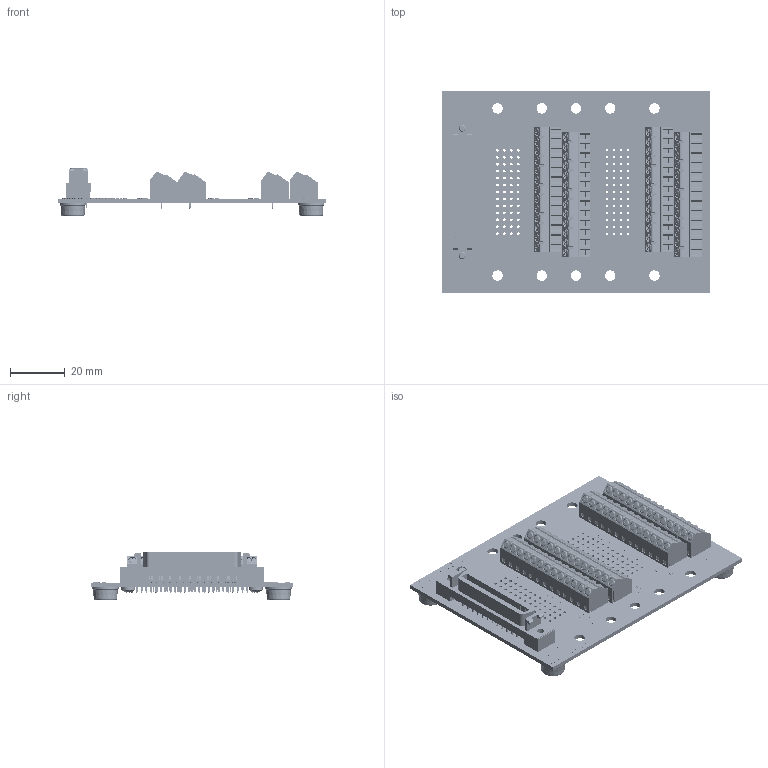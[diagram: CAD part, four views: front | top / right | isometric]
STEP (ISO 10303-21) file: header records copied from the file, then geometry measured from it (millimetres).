
FILE_DESCRIPTION (( 'STEP AP214' ), '1' );
FILE_NAME ('brkarmc50f-s-ft_rev_a.stp', '2018-07-10T02:59:25', ( '' ), ( '' ), 'SwSTEP 2.0', 'SolidWorks 2017', '' );
FILE_SCHEMA (( 'AUTOMOTIVE_DESIGN' ));
Length unit declared in the file: inch
Products named in the file (7): M2.5-.45 x 6mm philips pan head screw; MDR50 Straight; BRKARMC50F-S Board; brkarmc50f-s-ft_rev_a; Eurostyle PCB Terminal 3; RubberFoot; Eurostyle PCB Terminal 2
Assembly tree (28 placements, depth 2):
  brkarmc50f-s-ft_rev_a
    BRKARMC50F-S Board
    Eurostyle PCB Terminal 2  x8
    Eurostyle PCB Terminal 3  x12
    MDR50 Straight
    RubberFoot  x4
    M2.5-.45 x 6mm philips pan head screw  x2
Bounding box: 97.54 x 73.66 x 17.59 mm (x, y, z)
Volume: 15059.3 mm3; surface area: 35333.1 mm2
Topology: 8 solids, 68 shells, 8028 faces, 21249 edges, 14024 vertices
Faces by surface type: plane 5854, bspline 1465, cylinder 623, cone 78, torus 8
Full cylindrical faces by diameter (mm): 0.4 x40, 0.711 x49, 0.889 x52, 1.016 x52, 1.041 x52, 1.9 x52, 1.95 x52, 2.489 x2, 2.5 x4, 2.794 x2, 2.88 x52, 2.95 x52, 3.81 x10, 5 x2, 9.525 x4
Entity records: 197591 total; most frequent: CARTESIAN_POINT 84337, ORIENTED_EDGE 17890, DIRECTION 12254, EDGE_CURVE 8951, LINE 6222, VECTOR 6222, VERTEX_POINT 6119, EDGE_LOOP 4530
